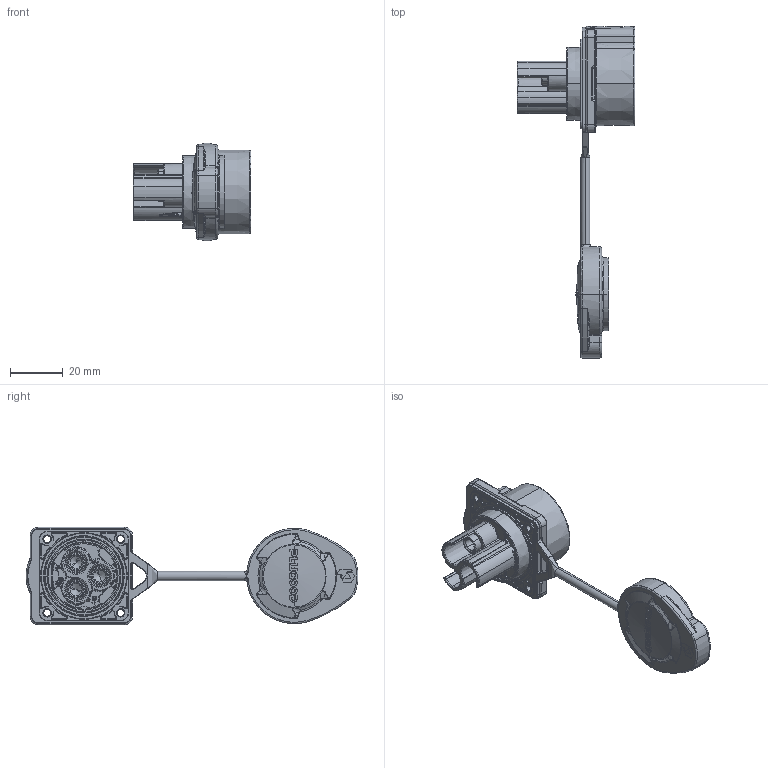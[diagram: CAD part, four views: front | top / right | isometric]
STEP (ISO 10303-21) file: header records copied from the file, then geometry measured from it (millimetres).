
FILE_DESCRIPTION (( 'STEP AP203' ), '1' );
FILE_NAME ('PLG28 3+1芯四孔插座正装-石头图.STEP', '2026-06-02T06:03:29', ( '微软用户' ), ( '微软中国' ), 'SwSTEP 2.0', 'SolidWorks 2024', '' );
FILE_SCHEMA (( 'CONFIG_CONTROL_DESIGN' ));
Length unit declared in the file: millimetre
Products named in the file (1): PLG28 3+1芯四孔插座正装-石头图
Bounding box: 44.8 x 126.27 x 37 mm (x, y, z)
Volume: 25378.4 mm3; surface area: 22795.1 mm2
Topology: 14 solids, 14 shells, 2335 faces, 6077 edges, 3671 vertices
Faces by surface type: plane 734, cylinder 608, torus 548, bspline 299, cone 127, sphere 19
Entity records: 81347 total; most frequent: CARTESIAN_POINT 26567, ORIENTED_EDGE 12066, DIRECTION 11045, EDGE_CURVE 6033, AXIS2_PLACEMENT_3D 4528, VERTEX_POINT 3671, CIRCLE 2491, EDGE_LOOP 2452
